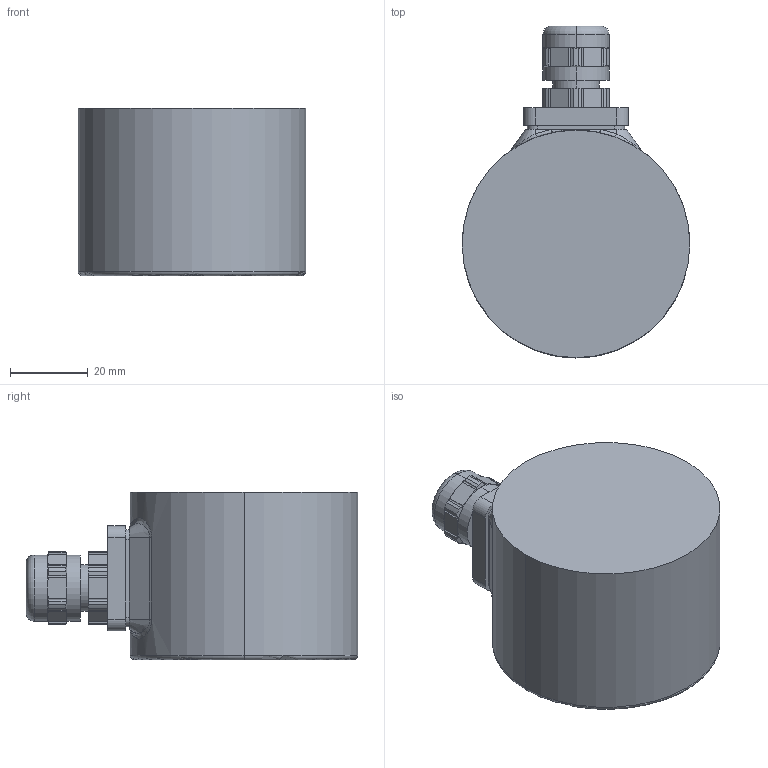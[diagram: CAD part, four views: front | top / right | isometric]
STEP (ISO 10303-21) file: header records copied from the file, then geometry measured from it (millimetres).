
FILE_DESCRIPTION (( 'STEP AP214' ), '1' );
FILE_NAME ('Drawing-OC-5-CR-432-SWS-NNN12T-Y-CRE-N.STEP', '2018-05-08T09:33:00', ( '' ), ( '' ), 'SwSTEP 2.0', 'SolidWorks 2017', '' );
FILE_SCHEMA (( 'AUTOMOTIVE_DESIGN' ));
Length unit declared in the file: millimetre
Products named in the file (1): Drawing-OC-5-CR-432-SWS-NNN12T-Y-CRE-N
Bounding box: 58.6 x 85.4 x 43.2 mm (x, y, z)
Volume: 18401.3 mm3; surface area: 32806.9 mm2
Topology: 18 solids, 18 shells, 742 faces, 1872 edges, 1173 vertices
Faces by surface type: cone 230, cylinder 222, plane 178, torus 96, bspline 16
Entity records: 33503 total; most frequent: CARTESIAN_POINT 7108, DIRECTION 4012, ORIENTED_EDGE 3716, EDGE_CURVE 1858, AXIS2_PLACEMENT_3D 1715, VERTEX_POINT 1173, CIRCLE 988, EDGE_LOOP 811
